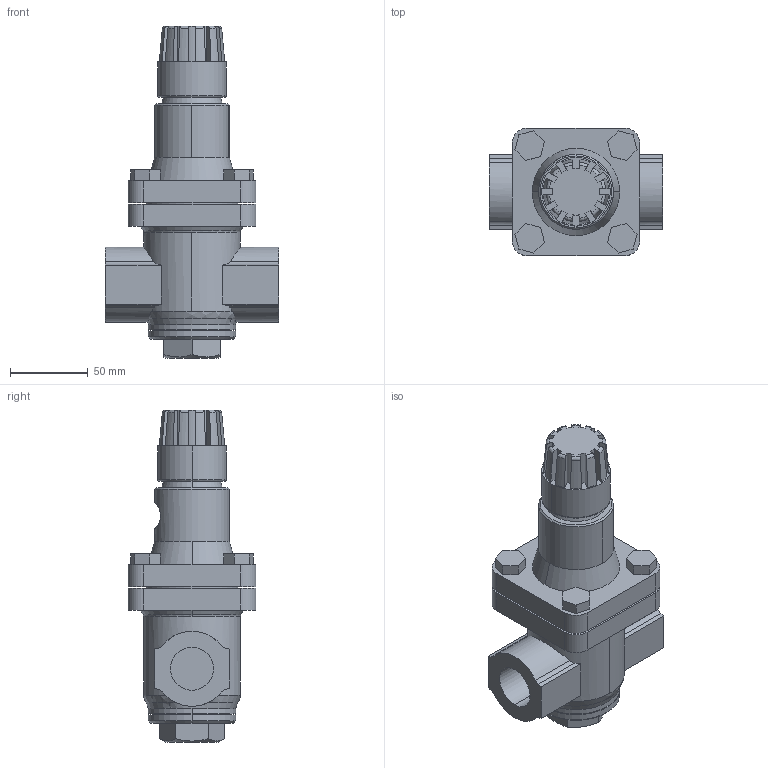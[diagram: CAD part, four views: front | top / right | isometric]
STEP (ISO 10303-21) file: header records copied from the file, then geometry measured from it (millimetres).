
FILE_DESCRIPTION( (''), '2;1');
FILE_NAME ('PC1276.4376.GD-45P 25A_14619.stp','2025-12-10T13:05:23',(''),(''),'spGate 20.6.3 (****-****-****-****)','','');
FILE_SCHEMA (('AUTOMOTIVE_DESIGN'));
Length unit declared in the file: millimetre
Bounding box: 111 x 82 x 212.9 mm (x, y, z)
Volume: 637302.3 mm3; surface area: 79482.8 mm2
Topology: 1 solids, 1 shells, 189 faces, 505 edges, 335 vertices
Faces by surface type: plane 94, cylinder 51, bspline 44
Entity records: 10879 total; most frequent: CARTESIAN_POINT 2486, ORIENTED_EDGE 1010, DIRECTION 826, COLOUR_RGB 695, PRESENTATION_STYLE_ASSIGNMENT 695, STYLED_ITEM 695, EDGE_CURVE 505, DRAUGHTING_PRE_DEFINED_CURVE_FONT 505
